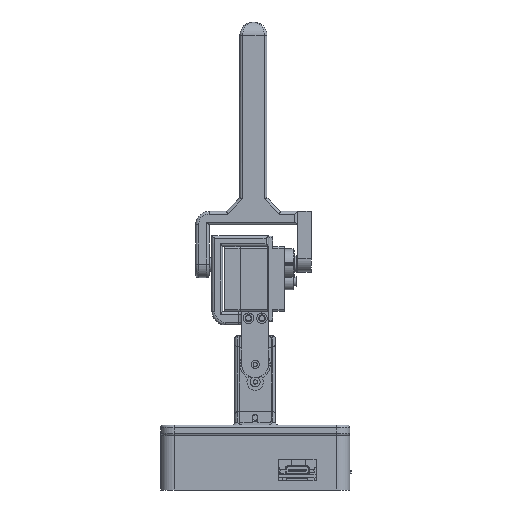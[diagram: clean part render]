
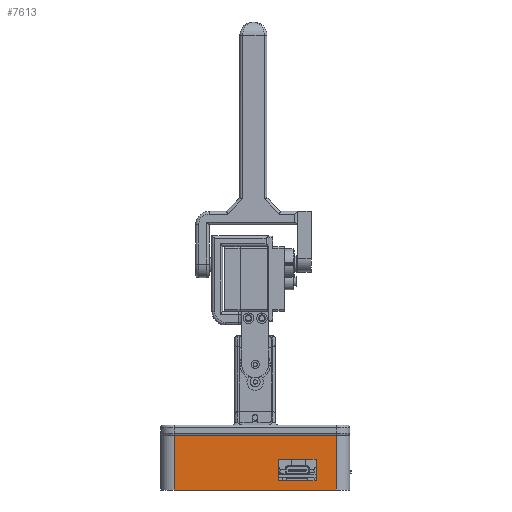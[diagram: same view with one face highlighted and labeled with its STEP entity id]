
A CAD part, left-side view. The second image highlights one B-rep face of the part: STEP entity #7613.
In plain terms, the highlighted planar face has unit normal (-1, 0, 0).
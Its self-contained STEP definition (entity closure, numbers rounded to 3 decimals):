
#7613 = ADVANCED_FACE('',(#7614,#7733),#7628,.F.);
#7614 = FACE_BOUND('',#7615,.F.);
#7615 = EDGE_LOOP('',(#7616,#7651,#7679,#7707));
#7616 = ORIENTED_EDGE('',*,*,#7617,.F.);
#7617 = EDGE_CURVE('',#7618,#7620,#7622,.T.);
#7618 = VERTEX_POINT('',#7619);
#7619 = CARTESIAN_POINT('',(-35.,-30.,-2.));
#7620 = VERTEX_POINT('',#7621);
#7621 = CARTESIAN_POINT('',(-35.,30.,-2.));
#7622 = SURFACE_CURVE('',#7623,(#7627,#7639),.PCURVE_S1.);
#7623 = LINE('',#7624,#7625);
#7624 = CARTESIAN_POINT('',(-35.,-35.,-2.));
#7625 = VECTOR('',#7626,1.);
#7626 = DIRECTION('',(0.,1.,0.));
#7627 = PCURVE('',#7628,#7633);
#7628 = PLANE('',#7629);
#7629 = AXIS2_PLACEMENT_3D('',#7630,#7631,#7632);
#7630 = CARTESIAN_POINT('',(-35.,-35.,-20.));
#7631 = DIRECTION('',(1.,0.,0.));
#7632 = DIRECTION('',(0.,0.,1.));
#7633 = DEFINITIONAL_REPRESENTATION('',(#7634),#7638);
#7634 = LINE('',#7635,#7636);
#7635 = CARTESIAN_POINT('',(18.,0.));
#7636 = VECTOR('',#7637,1.);
#7637 = DIRECTION('',(0.,-1.));
#7638 = ( GEOMETRIC_REPRESENTATION_CONTEXT(2) 
PARAMETRIC_REPRESENTATION_CONTEXT() REPRESENTATION_CONTEXT('2D SPACE',''
  ) );
#7639 = PCURVE('',#7640,#7645);
#7640 = PLANE('',#7641);
#7641 = AXIS2_PLACEMENT_3D('',#7642,#7643,#7644);
#7642 = CARTESIAN_POINT('',(-35.,-35.,-2.));
#7643 = DIRECTION('',(0.,0.,1.));
#7644 = DIRECTION('',(1.,0.,0.));
#7645 = DEFINITIONAL_REPRESENTATION('',(#7646),#7650);
#7646 = LINE('',#7647,#7648);
#7647 = CARTESIAN_POINT('',(0.,0.));
#7648 = VECTOR('',#7649,1.);
#7649 = DIRECTION('',(0.,1.));
#7650 = ( GEOMETRIC_REPRESENTATION_CONTEXT(2) 
PARAMETRIC_REPRESENTATION_CONTEXT() REPRESENTATION_CONTEXT('2D SPACE',''
  ) );
#7651 = ORIENTED_EDGE('',*,*,#7652,.F.);
#7652 = EDGE_CURVE('',#7653,#7618,#7655,.T.);
#7653 = VERTEX_POINT('',#7654);
#7654 = CARTESIAN_POINT('',(-35.,-30.,-22.));
#7655 = SURFACE_CURVE('',#7656,(#7660,#7667),.PCURVE_S1.);
#7656 = LINE('',#7657,#7658);
#7657 = CARTESIAN_POINT('',(-35.,-30.,-22.));
#7658 = VECTOR('',#7659,1.);
#7659 = DIRECTION('',(0.,0.,1.));
#7660 = PCURVE('',#7628,#7661);
#7661 = DEFINITIONAL_REPRESENTATION('',(#7662),#7666);
#7662 = LINE('',#7663,#7664);
#7663 = CARTESIAN_POINT('',(-2.,-5.));
#7664 = VECTOR('',#7665,1.);
#7665 = DIRECTION('',(1.,0.));
#7666 = ( GEOMETRIC_REPRESENTATION_CONTEXT(2) 
PARAMETRIC_REPRESENTATION_CONTEXT() REPRESENTATION_CONTEXT('2D SPACE',''
  ) );
#7667 = PCURVE('',#7668,#7673);
#7668 = CYLINDRICAL_SURFACE('',#7669,5.);
#7669 = AXIS2_PLACEMENT_3D('',#7670,#7671,#7672);
#7670 = CARTESIAN_POINT('',(-30.,-30.,-20.));
#7671 = DIRECTION('',(0.,0.,1.));
#7672 = DIRECTION('',(-1.,-0.,0.));
#7673 = DEFINITIONAL_REPRESENTATION('',(#7674),#7678);
#7674 = LINE('',#7675,#7676);
#7675 = CARTESIAN_POINT('',(0.,-2.));
#7676 = VECTOR('',#7677,1.);
#7677 = DIRECTION('',(0.,1.));
#7678 = ( GEOMETRIC_REPRESENTATION_CONTEXT(2) 
PARAMETRIC_REPRESENTATION_CONTEXT() REPRESENTATION_CONTEXT('2D SPACE',''
  ) );
#7679 = ORIENTED_EDGE('',*,*,#7680,.T.);
#7680 = EDGE_CURVE('',#7653,#7681,#7683,.T.);
#7681 = VERTEX_POINT('',#7682);
#7682 = CARTESIAN_POINT('',(-35.,30.,-22.));
#7683 = SURFACE_CURVE('',#7684,(#7688,#7695),.PCURVE_S1.);
#7684 = LINE('',#7685,#7686);
#7685 = CARTESIAN_POINT('',(-35.,-35.,-22.));
#7686 = VECTOR('',#7687,1.);
#7687 = DIRECTION('',(0.,1.,0.));
#7688 = PCURVE('',#7628,#7689);
#7689 = DEFINITIONAL_REPRESENTATION('',(#7690),#7694);
#7690 = LINE('',#7691,#7692);
#7691 = CARTESIAN_POINT('',(-2.,0.));
#7692 = VECTOR('',#7693,1.);
#7693 = DIRECTION('',(0.,-1.));
#7694 = ( GEOMETRIC_REPRESENTATION_CONTEXT(2) 
PARAMETRIC_REPRESENTATION_CONTEXT() REPRESENTATION_CONTEXT('2D SPACE',''
  ) );
#7695 = PCURVE('',#7696,#7701);
#7696 = PLANE('',#7697);
#7697 = AXIS2_PLACEMENT_3D('',#7698,#7699,#7700);
#7698 = CARTESIAN_POINT('',(-35.,-35.,-22.));
#7699 = DIRECTION('',(0.,0.,1.));
#7700 = DIRECTION('',(1.,0.,0.));
#7701 = DEFINITIONAL_REPRESENTATION('',(#7702),#7706);
#7702 = LINE('',#7703,#7704);
#7703 = CARTESIAN_POINT('',(0.,0.));
#7704 = VECTOR('',#7705,1.);
#7705 = DIRECTION('',(0.,1.));
#7706 = ( GEOMETRIC_REPRESENTATION_CONTEXT(2) 
PARAMETRIC_REPRESENTATION_CONTEXT() REPRESENTATION_CONTEXT('2D SPACE',''
  ) );
#7707 = ORIENTED_EDGE('',*,*,#7708,.F.);
#7708 = EDGE_CURVE('',#7620,#7681,#7709,.T.);
#7709 = SURFACE_CURVE('',#7710,(#7714,#7721),.PCURVE_S1.);
#7710 = LINE('',#7711,#7712);
#7711 = CARTESIAN_POINT('',(-35.,30.,-2.));
#7712 = VECTOR('',#7713,1.);
#7713 = DIRECTION('',(0.,0.,-1.));
#7714 = PCURVE('',#7628,#7715);
#7715 = DEFINITIONAL_REPRESENTATION('',(#7716),#7720);
#7716 = LINE('',#7717,#7718);
#7717 = CARTESIAN_POINT('',(18.,-65.));
#7718 = VECTOR('',#7719,1.);
#7719 = DIRECTION('',(-1.,0.));
#7720 = ( GEOMETRIC_REPRESENTATION_CONTEXT(2) 
PARAMETRIC_REPRESENTATION_CONTEXT() REPRESENTATION_CONTEXT('2D SPACE',''
  ) );
#7721 = PCURVE('',#7722,#7727);
#7722 = CYLINDRICAL_SURFACE('',#7723,5.);
#7723 = AXIS2_PLACEMENT_3D('',#7724,#7725,#7726);
#7724 = CARTESIAN_POINT('',(-30.,30.,-20.));
#7725 = DIRECTION('',(0.,0.,1.));
#7726 = DIRECTION('',(-1.,-0.,0.));
#7727 = DEFINITIONAL_REPRESENTATION('',(#7728),#7732);
#7728 = LINE('',#7729,#7730);
#7729 = CARTESIAN_POINT('',(-0.,18.));
#7730 = VECTOR('',#7731,1.);
#7731 = DIRECTION('',(-0.,-1.));
#7732 = ( GEOMETRIC_REPRESENTATION_CONTEXT(2) 
PARAMETRIC_REPRESENTATION_CONTEXT() REPRESENTATION_CONTEXT('2D SPACE',''
  ) );
#7733 = FACE_BOUND('',#7734,.F.);
#7734 = EDGE_LOOP('',(#7735,#7764,#7791,#7818));
#7735 = ORIENTED_EDGE('',*,*,#7736,.T.);
#7736 = EDGE_CURVE('',#7737,#7739,#7741,.T.);
#7737 = VERTEX_POINT('',#7738);
#7738 = CARTESIAN_POINT('',(-35.,-8.5,-18.645));
#7739 = VERTEX_POINT('',#7740);
#7740 = CARTESIAN_POINT('',(-35.,-22.5,-18.645));
#7741 = SURFACE_CURVE('',#7742,(#7746,#7753),.PCURVE_S1.);
#7742 = LINE('',#7743,#7744);
#7743 = CARTESIAN_POINT('',(-35.,-28.75,-18.645));
#7744 = VECTOR('',#7745,1.);
#7745 = DIRECTION('',(0.,-1.,0.));
#7746 = PCURVE('',#7628,#7747);
#7747 = DEFINITIONAL_REPRESENTATION('',(#7748),#7752);
#7748 = LINE('',#7749,#7750);
#7749 = CARTESIAN_POINT('',(1.355,-6.25));
#7750 = VECTOR('',#7751,1.);
#7751 = DIRECTION('',(0.,1.));
#7752 = ( GEOMETRIC_REPRESENTATION_CONTEXT(2) 
PARAMETRIC_REPRESENTATION_CONTEXT() REPRESENTATION_CONTEXT('2D SPACE',''
  ) );
#7753 = PCURVE('',#7754,#7759);
#7754 = PLANE('',#7755);
#7755 = AXIS2_PLACEMENT_3D('',#7756,#7757,#7758);
#7756 = CARTESIAN_POINT('',(-38.,-22.5,-18.645));
#7757 = DIRECTION('',(0.,0.,1.));
#7758 = DIRECTION('',(1.,0.,0.));
#7759 = DEFINITIONAL_REPRESENTATION('',(#7760),#7763);
#7760 = B_SPLINE_CURVE_WITH_KNOTS('',1,(#7761,#7762),.UNSPECIFIED.,.F.,
  .F.,(2,2),(-20.25,-6.25),.PIECEWISE_BEZIER_KNOTS.);
#7761 = CARTESIAN_POINT('',(3.,14.));
#7762 = CARTESIAN_POINT('',(3.,0.));
#7763 = ( GEOMETRIC_REPRESENTATION_CONTEXT(2) 
PARAMETRIC_REPRESENTATION_CONTEXT() REPRESENTATION_CONTEXT('2D SPACE',''
  ) );
#7764 = ORIENTED_EDGE('',*,*,#7765,.T.);
#7765 = EDGE_CURVE('',#7739,#7766,#7768,.T.);
#7766 = VERTEX_POINT('',#7767);
#7767 = CARTESIAN_POINT('',(-35.,-22.5,-10.645));
#7768 = SURFACE_CURVE('',#7769,(#7773,#7780),.PCURVE_S1.);
#7769 = LINE('',#7770,#7771);
#7770 = CARTESIAN_POINT('',(-35.,-22.5,-19.323));
#7771 = VECTOR('',#7772,1.);
#7772 = DIRECTION('',(0.,0.,1.));
#7773 = PCURVE('',#7628,#7774);
#7774 = DEFINITIONAL_REPRESENTATION('',(#7775),#7779);
#7775 = LINE('',#7776,#7777);
#7776 = CARTESIAN_POINT('',(0.678,-12.5));
#7777 = VECTOR('',#7778,1.);
#7778 = DIRECTION('',(1.,0.));
#7779 = ( GEOMETRIC_REPRESENTATION_CONTEXT(2) 
PARAMETRIC_REPRESENTATION_CONTEXT() REPRESENTATION_CONTEXT('2D SPACE',''
  ) );
#7780 = PCURVE('',#7781,#7786);
#7781 = PLANE('',#7782);
#7782 = AXIS2_PLACEMENT_3D('',#7783,#7784,#7785);
#7783 = CARTESIAN_POINT('',(-38.,-22.5,-18.645));
#7784 = DIRECTION('',(0.,1.,0.));
#7785 = DIRECTION('',(0.,0.,1.));
#7786 = DEFINITIONAL_REPRESENTATION('',(#7787),#7790);
#7787 = B_SPLINE_CURVE_WITH_KNOTS('',1,(#7788,#7789),.UNSPECIFIED.,.F.,
  .F.,(2,2),(0.678,8.678),.PIECEWISE_BEZIER_KNOTS.);
#7788 = CARTESIAN_POINT('',(0.,3.));
#7789 = CARTESIAN_POINT('',(8.,3.));
#7790 = ( GEOMETRIC_REPRESENTATION_CONTEXT(2) 
PARAMETRIC_REPRESENTATION_CONTEXT() REPRESENTATION_CONTEXT('2D SPACE',''
  ) );
#7791 = ORIENTED_EDGE('',*,*,#7792,.F.);
#7792 = EDGE_CURVE('',#7793,#7766,#7795,.T.);
#7793 = VERTEX_POINT('',#7794);
#7794 = CARTESIAN_POINT('',(-35.,-8.5,-10.645));
#7795 = SURFACE_CURVE('',#7796,(#7800,#7807),.PCURVE_S1.);
#7796 = LINE('',#7797,#7798);
#7797 = CARTESIAN_POINT('',(-35.,-28.75,-10.645));
#7798 = VECTOR('',#7799,1.);
#7799 = DIRECTION('',(0.,-1.,0.));
#7800 = PCURVE('',#7628,#7801);
#7801 = DEFINITIONAL_REPRESENTATION('',(#7802),#7806);
#7802 = LINE('',#7803,#7804);
#7803 = CARTESIAN_POINT('',(9.355,-6.25));
#7804 = VECTOR('',#7805,1.);
#7805 = DIRECTION('',(0.,1.));
#7806 = ( GEOMETRIC_REPRESENTATION_CONTEXT(2) 
PARAMETRIC_REPRESENTATION_CONTEXT() REPRESENTATION_CONTEXT('2D SPACE',''
  ) );
#7807 = PCURVE('',#7808,#7813);
#7808 = PLANE('',#7809);
#7809 = AXIS2_PLACEMENT_3D('',#7810,#7811,#7812);
#7810 = CARTESIAN_POINT('',(-38.,-22.5,-10.645));
#7811 = DIRECTION('',(0.,0.,1.));
#7812 = DIRECTION('',(1.,0.,0.));
#7813 = DEFINITIONAL_REPRESENTATION('',(#7814),#7817);
#7814 = B_SPLINE_CURVE_WITH_KNOTS('',1,(#7815,#7816),.UNSPECIFIED.,.F.,
  .F.,(2,2),(-20.25,-6.25),.PIECEWISE_BEZIER_KNOTS.);
#7815 = CARTESIAN_POINT('',(3.,14.));
#7816 = CARTESIAN_POINT('',(3.,0.));
#7817 = ( GEOMETRIC_REPRESENTATION_CONTEXT(2) 
PARAMETRIC_REPRESENTATION_CONTEXT() REPRESENTATION_CONTEXT('2D SPACE',''
  ) );
#7818 = ORIENTED_EDGE('',*,*,#7819,.F.);
#7819 = EDGE_CURVE('',#7737,#7793,#7820,.T.);
#7820 = SURFACE_CURVE('',#7821,(#7825,#7832),.PCURVE_S1.);
#7821 = LINE('',#7822,#7823);
#7822 = CARTESIAN_POINT('',(-35.,-8.5,-19.323));
#7823 = VECTOR('',#7824,1.);
#7824 = DIRECTION('',(0.,0.,1.));
#7825 = PCURVE('',#7628,#7826);
#7826 = DEFINITIONAL_REPRESENTATION('',(#7827),#7831);
#7827 = LINE('',#7828,#7829);
#7828 = CARTESIAN_POINT('',(0.678,-26.5));
#7829 = VECTOR('',#7830,1.);
#7830 = DIRECTION('',(1.,0.));
#7831 = ( GEOMETRIC_REPRESENTATION_CONTEXT(2) 
PARAMETRIC_REPRESENTATION_CONTEXT() REPRESENTATION_CONTEXT('2D SPACE',''
  ) );
#7832 = PCURVE('',#7833,#7838);
#7833 = PLANE('',#7834);
#7834 = AXIS2_PLACEMENT_3D('',#7835,#7836,#7837);
#7835 = CARTESIAN_POINT('',(-38.,-8.5,-18.645));
#7836 = DIRECTION('',(0.,1.,0.));
#7837 = DIRECTION('',(0.,0.,1.));
#7838 = DEFINITIONAL_REPRESENTATION('',(#7839),#7842);
#7839 = B_SPLINE_CURVE_WITH_KNOTS('',1,(#7840,#7841),.UNSPECIFIED.,.F.,
  .F.,(2,2),(0.678,8.678),.PIECEWISE_BEZIER_KNOTS.);
#7840 = CARTESIAN_POINT('',(0.,3.));
#7841 = CARTESIAN_POINT('',(8.,3.));
#7842 = ( GEOMETRIC_REPRESENTATION_CONTEXT(2) 
PARAMETRIC_REPRESENTATION_CONTEXT() REPRESENTATION_CONTEXT('2D SPACE',''
  ) );
